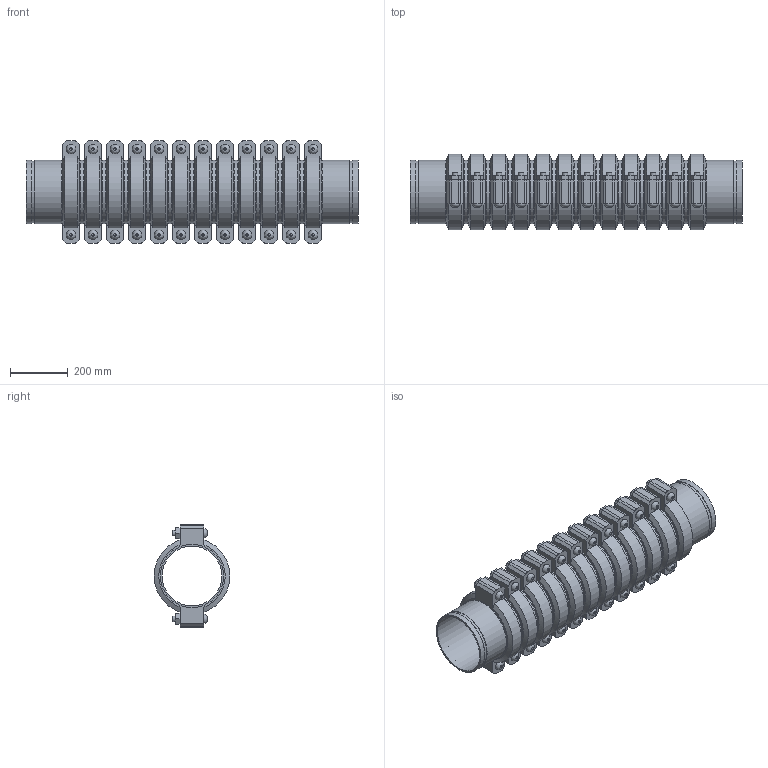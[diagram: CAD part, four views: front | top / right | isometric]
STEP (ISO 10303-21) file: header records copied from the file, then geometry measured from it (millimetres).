
FILE_DESCRIPTION(/* description */ ('VIC SS EXPANSION JOINT 12 COUPLINGS EXPANDED STYLE 155P (OGS) (POTABLE WATER) ','CAx-IF Rec.Pracs.---Representation and Presentation of Product Manufacturing Information (PMI)---4.0---2014-10-13'),/* implementation_level */ '2;1');
FILE_NAME(/* name */ 'C:\Users\kkamble\AppData\Roaming\Autodesk\ApplicationPlugins\Victaulic.Temp\A679\Victaulic_SS_Expansion Joint_Expanded_12 Couplings_Style 155P (OGS)-Potable Water_12 Coup_Expd_8 (200).stp',/* time_stamp */ '2021-07-16T16:47:49+05:00',/* author */ ('kkamble'),/* organization */ ('Victaulic'),/* preprocessor_version */ 'ST-DEVELOPER v17.2',/* originating_system */ 'Autodesk Inventor 2019',/* authorisation */ '');
FILE_SCHEMA (('AP242_MANAGED_MODEL_BASED_3D_ENGINEERING_MIM_LF { 1 0 10303 442 1 1 4 }'));
Length unit declared in the file: inch
Products named in the file (4): 155P-08.0; Nipple-08.0; Nipple-08.0_1; 075-08.0
Assembly tree (25 placements, depth 2):
  155P-08.0
    Nipple-08.0  x2
    Nipple-08.0_1  x11
    075-08.0  x12
Bounding box: 1149.35 x 261.72 x 354.84 mm (x, y, z)
Volume: 20695957.9 mm3; surface area: 3725652.8 mm2
Topology: 25 solids, 49 shells, 840 faces, 1986 edges, 1392 vertices
Faces by surface type: plane 510, cylinder 258, cone 48, bspline 24
Full cylindrical faces by diameter (mm): 19.05 x48, 21.209 x24, 206.985 x13, 212.725 x12, 214.401 x26, 219.075 x63
Entity records: 2904 total; most frequent: CARTESIAN_POINT 509, DIRECTION 493, ORIENTED_EDGE 386, AXIS2_PLACEMENT_3D 200, EDGE_CURVE 193, VERTEX_POINT 138, EDGE_LOOP 107, LINE 93
